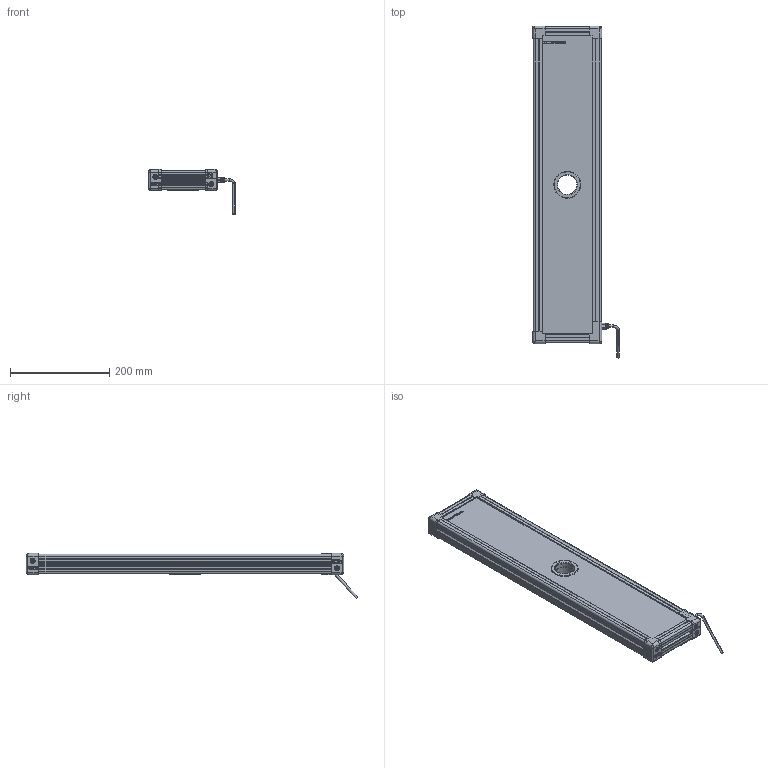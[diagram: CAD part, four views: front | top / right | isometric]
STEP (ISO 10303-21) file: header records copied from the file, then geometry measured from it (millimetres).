
FILE_DESCRIPTION (( 'STEP AP214' ), '1' );
FILE_NAME ('EFFI-FD-100-600-ZZZ-1M12.STEP', '2021-06-18T14:22:06', ( '' ), ( '' ), 'SwSTEP 2.0', 'SolidWorks 2021', '' );
FILE_SCHEMA (( 'AUTOMOTIVE_DESIGN' ));
Length unit declared in the file: millimetre
Products named in the file (13): assemblage Ø39; 001036; Pièce13^EFFI-FD-XXX-YYY-ZZZ (1connecteur) Ø39; 000590; profile X_PERCE; 001035; petite joue + vis; cordon_Avec cable; petite joue; 000629; profile Y_PERCE; grande joue; EFFI-FD-100-600-ZZZ-1M12
Assembly tree (21 placements, depth 3):
  EFFI-FD-100-600-ZZZ-1M12
    profile X_PERCE  x2
    profile Y_PERCE  x2
    Pièce13^EFFI-FD-XXX-YYY-ZZZ (1connecteur) Ø39
    petite joue + vis  x3
      petite joue
      000629
    000629  x2
    grande joue
    assemblage Ø39
      001036
      000590  x3
      001035
    cordon_Avec cable
Bounding box: 174.15 x 667.81 x 91.44 mm (x, y, z)
Volume: 2994221.7 mm3; surface area: 435023.5 mm2
Topology: 22 solids, 28 shells, 3790 faces, 10080 edges, 6629 vertices
Faces by surface type: plane 2363, cylinder 697, bspline 552, cone 150, torus 28
Entity records: 71488 total; most frequent: CARTESIAN_POINT 28200, ORIENTED_EDGE 9066, DIRECTION 7460, EDGE_CURVE 4537, VECTOR 3434, LINE 3434, VERTEX_POINT 3000, AXIS2_PLACEMENT_3D 2013
